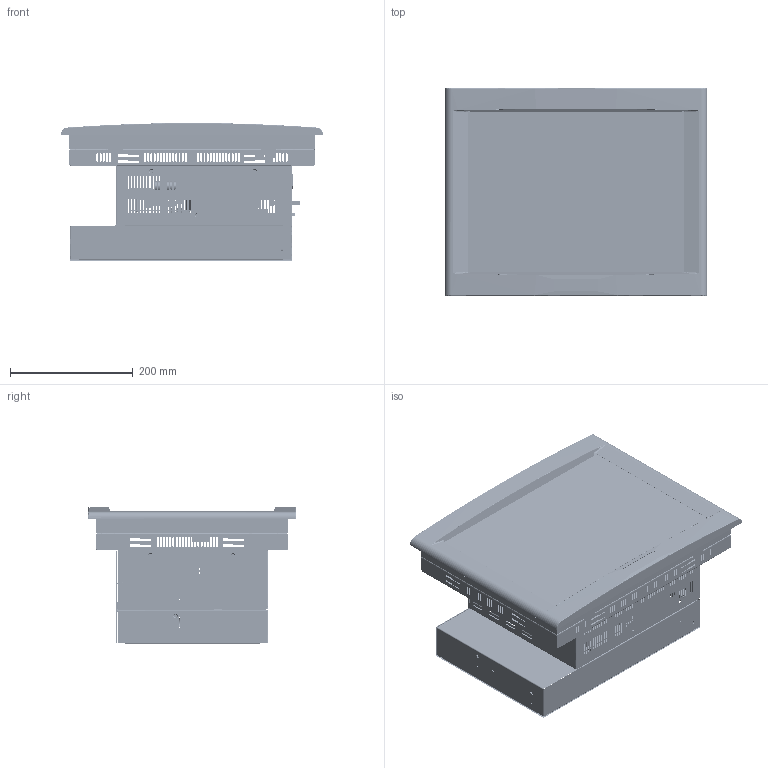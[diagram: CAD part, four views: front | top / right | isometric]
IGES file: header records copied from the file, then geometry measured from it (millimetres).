
Start section:  PTC IGES file: day_15_full.igs
Global section: file name: day_15_full.igs; native system: Pro/ENGINEER by Parametric Technology Corporation; preprocessor: 2000100; author: srollman; organization: Unknown; date: 050106.162741; units: inch
Bounding box: 426.97 x 338.07 x 224.37 mm (x, y, z)
Surface area: 1859850.5 mm2 (no closed solid volume)
Topology: 0 solids, 0 shells, 764 faces, 12531 edges, 12528 vertices
Faces by surface type: bspline 657, revolution 107
